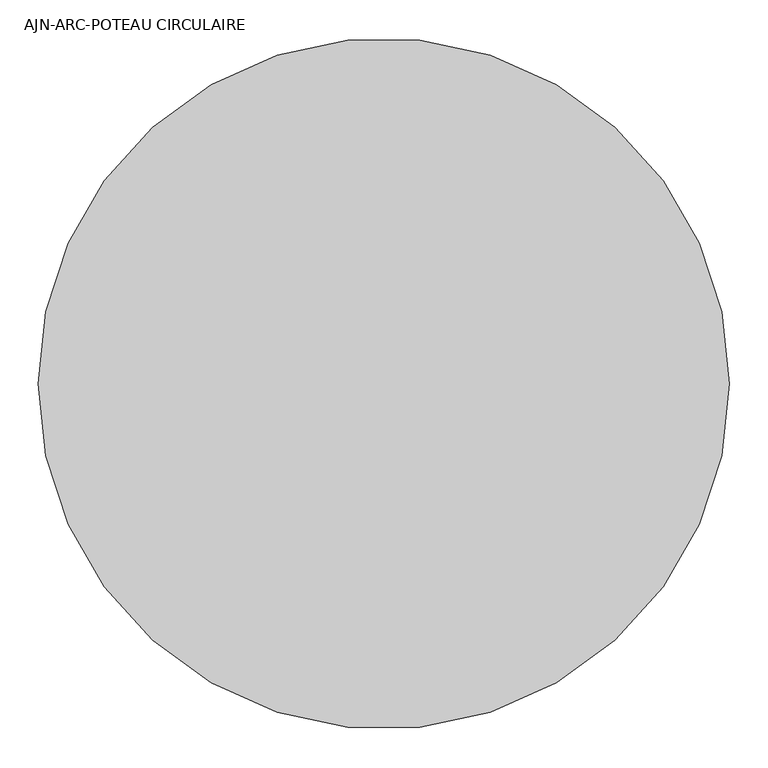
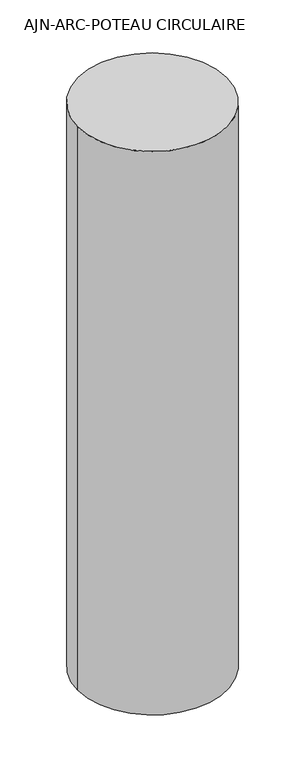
"""IFC4 building model written with IfcOpenShell, lengths in millimetres: column geometry, AJN-ARC-POTEAU CIRCULAIRE : ø90."""

import ifcopenshell
import ifcopenshell.guid

model = None  # the IFC model being written
_history = None  # IfcOwnerHistory: only IFC2X3 demands one
_inside = {}  # id of a spatial element -> (the spatial element, [elements in it])
_under = {}  # id of a project, library or spatial element -> (it, [spatial elements below it])
_declared = {}  # id of a project -> (the project, [libraries it declares])
_typed = {}  # id of a type object -> (the type object, [elements of that type])
_made_of = {}  # id of a material, layer set ... -> (it, [elements and type objects made of it])


def new_model(schema):
    """Start an empty IFC model of exactly this schema.

    Asked for "IFC4X3", IfcOpenShell would pick the latest addendum, in which some entities
    have other attributes; the version numbers below select the first issue.
    IFC2X3 requires an IfcOwnerHistory on every rooted entity: one is made here for all.
    """
    global model, _history
    if schema == "IFC4X3":
        model = ifcopenshell.file(schema_version=(4, 3, 0, 0))
    else:
        model = ifcopenshell.file(schema=schema)
    _inside.clear()
    _under.clear()
    _declared.clear()
    _typed.clear()
    _made_of.clear()
    _history = None
    if model.schema == "IFC2X3":
        org = make("IfcOrganization", Name="unknown")
        user = make(
            "IfcPersonAndOrganization",
            ThePerson=make("IfcPerson", FamilyName="unknown"),
            TheOrganization=org,
        )
        app = make(
            "IfcApplication",
            ApplicationDeveloper=org,
            Version="unknown",
            ApplicationFullName="unknown",
            ApplicationIdentifier="unknown",
        )
        _history = make(
            "IfcOwnerHistory",
            OwningUser=user,
            OwningApplication=app,
            ChangeAction="ADDED",
            CreationDate=0,
        )
    return model


def make(cls, **values):
    """One entity of the class cls with the attributes given. An attribute that is None is left unset."""
    return model.create_entity(
        cls, **{name: value for name, value in values.items() if value is not None}
    )


def rooted(cls, **values):
    """An entity with a GlobalId (a new one), such as an element, a storey or a relation."""
    return make(cls, GlobalId=ifcopenshell.guid.new(), OwnerHistory=_history, **values)


def si_unit(unit_type, name, prefix=None):
    """IfcSIUnit, for example si_unit("LENGTHUNIT", "METRE", prefix="MILLI")."""
    return make("IfcSIUnit", UnitType=unit_type, Prefix=prefix, Name=name)


def assignment(units):
    """IfcUnitAssignment: the units of a project."""
    return None if units is None else make("IfcUnitAssignment", Units=units)


def point(xyz):
    """IfcCartesianPoint."""
    return None if xyz is None else make("IfcCartesianPoint", Coordinates=xyz)


def direction(xyz):
    """IfcDirection."""
    return None if xyz is None else make("IfcDirection", DirectionRatios=xyz)


def frame(location, z_axis=None, x_axis=None):
    """IfcAxis2Placement3D, a coordinate frame: its origin and axes. An axis left out is left unset."""
    return make(
        "IfcAxis2Placement3D",
        Location=point(location),
        Axis=direction(z_axis),
        RefDirection=direction(x_axis),
    )


def frame_2d(location, x_axis=None):
    """IfcAxis2Placement2D, a coordinate frame in the plane: its origin and x axis."""
    return make(
        "IfcAxis2Placement2D", Location=point(location), RefDirection=direction(x_axis)
    )


def origin():
    """The frame at (0, 0, 0) with its axes left unset."""
    return frame((0.0, 0.0, 0.0))


def origin_2d():
    """The frame at (0, 0) in the plane with its x axis left unset."""
    return frame_2d((0.0, 0.0))


def place(relative_to, where):
    """IfcLocalPlacement: puts the frame where relative to a parent placement (None: the world)."""
    return make(
        "IfcLocalPlacement", PlacementRelTo=relative_to, RelativePlacement=where
    )


def context(
    kind, dimensions, precision=None, world=None, true_north=None, identifier=None
):
    """IfcGeometricRepresentationContext, for example the 3D "Model" context."""
    return make(
        "IfcGeometricRepresentationContext",
        ContextIdentifier=identifier,
        ContextType=kind,
        CoordinateSpaceDimension=dimensions,
        Precision=precision,
        WorldCoordinateSystem=world,
        TrueNorth=true_north,
    )


def project(units=None, contexts=None):
    """IfcProject with its units and contexts."""
    return rooted(
        "IfcProject",
        Name="project",
        RepresentationContexts=contexts,
        UnitsInContext=assignment(units),
    )


def spatial(cls, under=None, at=None, **own):
    """A site, building, storey or space (cls), placed at a placement, below another one or the project."""
    s = rooted(cls, ObjectPlacement=at, **own)
    if under is not None:
        _under.setdefault(under.id(), (under, []))[1].append(s)
    return s


def circle_curve(where, radius):
    """IfcCircle in the frame where."""
    return make("IfcCircle", Position=where, Radius=radius)


def trimmed(basis, trim1, trim2, sense, master):
    """IfcTrimmedCurve: the piece of a basis curve between two trims."""
    return make(
        "IfcTrimmedCurve",
        BasisCurve=basis,
        Trim1=trim1,
        Trim2=trim2,
        SenseAgreement=sense,
        MasterRepresentation=master,
    )


def segment(curve, same_sense, transition):
    """IfcCompositeCurveSegment."""
    return make(
        "IfcCompositeCurveSegment",
        Transition=transition,
        SameSense=same_sense,
        ParentCurve=curve,
    )


def composite_curve(segments, self_intersect=None):
    """IfcCompositeCurve: segments joined end to end."""
    return make("IfcCompositeCurve", Segments=segments, SelfIntersect=self_intersect)


def outline(outer, holes=None, kind="AREA"):
    """IfcArbitraryClosedProfileDef: a profile drawn as a closed curve; with holes, ...WithVoids."""
    if holes is None:
        return make("IfcArbitraryClosedProfileDef", ProfileType=kind, OuterCurve=outer)
    return make(
        "IfcArbitraryProfileDefWithVoids",
        ProfileType=kind,
        OuterCurve=outer,
        InnerCurves=holes,
    )


def extrude(swept, where, along, depth):
    """IfcExtrudedAreaSolid: the profile swept, set in the frame where, extruded along a direction by depth."""
    return make(
        "IfcExtrudedAreaSolid",
        SweptArea=swept,
        Position=where,
        ExtrudedDirection=direction(along),
        Depth=depth,
    )


def shape(context_of_items, identifier, shape_type, items):
    """IfcShapeRepresentation: the items that make up one representation, for example the "Body"."""
    return make(
        "IfcShapeRepresentation",
        ContextOfItems=context_of_items,
        RepresentationIdentifier=identifier,
        RepresentationType=shape_type,
        Items=items,
    )


def source(mapping_origin, context_of_items, identifier, shape_type, items):
    """IfcRepresentationMap: a shape defined once, which mapped items show again and again."""
    return make(
        "IfcRepresentationMap",
        MappingOrigin=mapping_origin,
        MappedRepresentation=shape(context_of_items, identifier, shape_type, items),
    )


def transform(
    local_origin,
    x_axis=None,
    y_axis=None,
    z_axis=None,
    scale=None,
    scale2=None,
    scale3=None,
    uniform=True,
):
    """IfcCartesianTransformationOperator3D, or its non-uniform kind. x_axis, y_axis, z_axis: its Axis1, 2, 3."""
    if uniform:
        return make(
            "IfcCartesianTransformationOperator3D",
            Axis1=direction(x_axis),
            Axis2=direction(y_axis),
            LocalOrigin=point(local_origin),
            Scale=scale,
            Axis3=direction(z_axis),
        )
    return make(
        "IfcCartesianTransformationOperator3DnonUniform",
        Axis1=direction(x_axis),
        Axis2=direction(y_axis),
        LocalOrigin=point(local_origin),
        Scale=scale,
        Axis3=direction(z_axis),
        Scale2=scale2,
        Scale3=scale3,
    )


def mapped(mapping_source, mapping_target):
    """IfcMappedItem: shows the shape of a source again, moved by a transform."""
    return make(
        "IfcMappedItem", MappingSource=mapping_source, MappingTarget=mapping_target
    )


def made_of(thing, what):
    """Note that an element or type object is made of a material, layer set ...; save() writes the relation."""
    if what is not None:
        _made_of.setdefault(what.id(), (what, []))[1].append(thing)
    return thing


def element(
    cls,
    number,
    at=None,
    inside=None,
    cuts=None,
    type_object=None,
    material=None,
    context=None,
    identifier="Body",
    shape_type=None,
    held_by="IfcProductDefinitionShape",
    body=None,
    shapes=None,
    **own,
):
    """One element of the class cls, such as IfcWall. Its Tag is "e" and its number.

    at: its placement. inside: the storey or other place that contains it. cuts: it is an
    opening in that element (IfcRelVoidsElement). A single representation is given by context,
    identifier, shape_type and body (its items); several are given by shapes. held_by: the class
    of the entity that holds the representations. save() writes the other relations.
    """
    e = rooted(cls, Tag="e%d" % number, ObjectPlacement=at, **own)
    if body is not None:
        shapes = [shape(context, identifier, shape_type, body)]
    if shapes is not None:
        e.Representation = make(held_by, Representations=shapes)
    if inside is not None:
        _inside.setdefault(inside.id(), (inside, []))[1].append(e)
    if cuts is not None:
        rooted(
            "IfcRelVoidsElement", RelatingBuildingElement=cuts, RelatedOpeningElement=e
        )
    if type_object is not None:
        _typed.setdefault(type_object.id(), (type_object, []))[1].append(e)
    return made_of(e, material)


def aggregate(whole, parts):
    """IfcRelAggregates: a whole, such as a stair, and the parts it consists of."""
    return rooted("IfcRelAggregates", RelatingObject=whole, RelatedObjects=parts)


def save(model, path):
    """Write the relations noted so far, then the file.

    IfcRelAggregates (storeys below a building ...), IfcRelContainedInSpatialStructure (elements
    in a storey), IfcRelDefinesByType, IfcRelAssociatesMaterial and IfcRelDeclares: one each for
    every whole, place, type object, material and project.
    """
    for whole, parts in _under.values():
        aggregate(whole, parts)
    for where, things in _inside.values():
        rooted(
            "IfcRelContainedInSpatialStructure",
            RelatedElements=things,
            RelatingStructure=where,
        )
    for kind, things in _typed.values():
        rooted("IfcRelDefinesByType", RelatedObjects=things, RelatingType=kind)
    for what, things in _made_of.values():
        rooted("IfcRelAssociatesMaterial", RelatedObjects=things, RelatingMaterial=what)
    for by, libraries in _declared.values():
        rooted("IfcRelDeclares", RelatingContext=by, RelatedDefinitions=libraries)
    model.write(path)


def ajn_arc_poteau_circulaire_9c1f96e0(model_context):
    return source(origin(), model_context, "Body", "SweptSolid", [
        extrude(outline(composite_curve([segment(trimmed(circle_curve(origin_2d(), 450.0), [point((-450.0, 0.0))], [point((450.0, 0.0))], False, "CARTESIAN"), True, "CONTINUOUS"), segment(trimmed(circle_curve(origin_2d(), 450.0), [point((450.0, 0.0))], [point((-450.0, 0.0))], False, "CARTESIAN"), True, "CONTINUOUS")], self_intersect=False)), frame((0.0, 0.0, 35199.9999686), z_axis=(0.0, 0.0, 1.0), x_axis=(1.0, 0.0, 0.0)), (0.0, 0.0, 1.0), 3600.0),
    ])


if __name__ == "__main__":
    model = new_model("IFC4")
    model_context = context("Model", 3, world=origin())
    ifc_project = project(units=[si_unit("LENGTHUNIT", "METRE", prefix="MILLI")], contexts=[model_context])
    site = spatial("IfcSite", under=ifc_project)
    building = spatial("IfcBuilding", under=site)
    placement = place(None, origin())
    ajn_arc_poteau_circulaire_shape = ajn_arc_poteau_circulaire_9c1f96e0(model_context)
    element("IfcColumn", 1, ObjectType="AJN-ARC-POTEAU CIRCULAIRE : ø90", at=placement, inside=building, context=model_context, shape_type="MappedRepresentation", body=[
        mapped(ajn_arc_poteau_circulaire_shape, transform((0.0, 0.0, 0.0), x_axis=(1.0, 0.0, 0.0), y_axis=(0.0, 1.0, 0.0), z_axis=(0.0, 0.0, 1.0))),
    ])
    save(model, "model.ifc")
